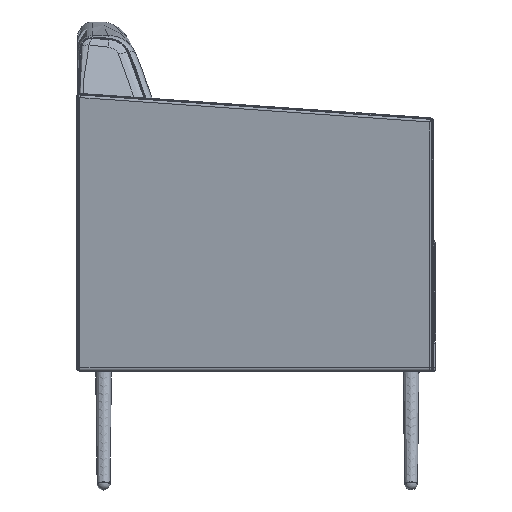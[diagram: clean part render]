
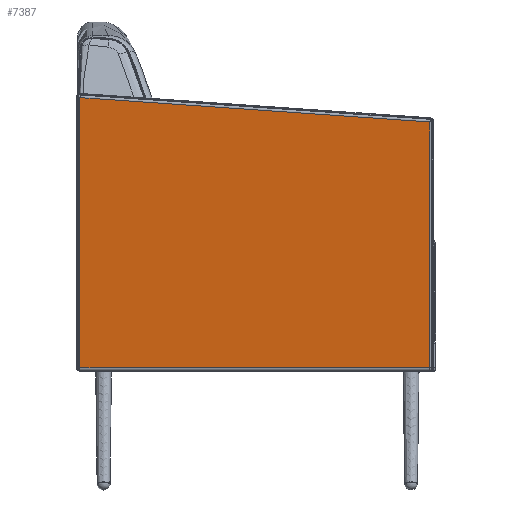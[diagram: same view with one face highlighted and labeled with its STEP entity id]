
A CAD part, left-side view. The second image highlights one B-rep face of the part: STEP entity #7387.
In plain terms, the highlighted planar face has unit normal (-0.993, 0, -0.119).
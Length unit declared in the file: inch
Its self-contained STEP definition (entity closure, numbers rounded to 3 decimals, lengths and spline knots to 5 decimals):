
#976=PLANE('',#8132);
#1129=LINE('',#19431,#1342);
#1144=LINE('',#19641,#1357);
#1151=LINE('',#19672,#1364);
#1153=LINE('',#19676,#1366);
#1342=VECTOR('',#9362,0.3937);
#1357=VECTOR('',#9489,0.3937);
#1364=VECTOR('',#9516,0.3937);
#1366=VECTOR('',#9522,0.3937);
#1799=FACE_OUTER_BOUND('',#2336,.T.);
#2336=EDGE_LOOP('',(#6142,#6143,#6144,#6145));
#3330=VERTEX_POINT('',#19415);
#3334=VERTEX_POINT('',#19429);
#3374=VERTEX_POINT('',#19636);
#3375=VERTEX_POINT('',#19640);
#4257=EDGE_CURVE('',#3330,#3334,#1129,.T.);
#4317=EDGE_CURVE('',#3375,#3374,#1144,.T.);
#4331=EDGE_CURVE('',#3374,#3330,#1151,.T.);
#4333=EDGE_CURVE('',#3334,#3375,#1153,.T.);
#6142=ORIENTED_EDGE('',*,*,#4331,.T.);
#6143=ORIENTED_EDGE('',*,*,#4257,.T.);
#6144=ORIENTED_EDGE('',*,*,#4333,.T.);
#6145=ORIENTED_EDGE('',*,*,#4317,.T.);
#7387=ADVANCED_FACE('',(#1799),#976,.F.);
#8132=AXIS2_PLACEMENT_3D('',#19675,#9520,#9521);
#9362=DIRECTION('',(0.,-1.,0.));
#9489=DIRECTION('',(-0.008,0.998,0.069));
#9516=DIRECTION('',(0.119,0.,-0.993));
#9520=DIRECTION('center_axis',(0.993,0.,
0.119));
#9521=DIRECTION('ref_axis',(0.119,0.,-0.993));
#9522=DIRECTION('',(-0.119,0.,0.993));
#19415=CARTESIAN_POINT('',(0.01832,1.57693,7.69596));
#19429=CARTESIAN_POINT('',(0.01832,-21.81007,7.69596));
#19431=CARTESIAN_POINT('',(0.01832,1.82693,7.69596));
#19636=CARTESIAN_POINT('',(-2.14445,1.57693,25.75805));
#19640=CARTESIAN_POINT('',(-1.94966,-21.81007,24.13132));
#19641=CARTESIAN_POINT('',(-2.14126,1.19436,25.73144));
#19672=CARTESIAN_POINT('',(-0.50083,1.57693,12.03156));
#19675=CARTESIAN_POINT('Origin',(0.04469,1.82693,7.47569));
#19676=CARTESIAN_POINT('',(-0.45109,-21.81007,11.61618));
